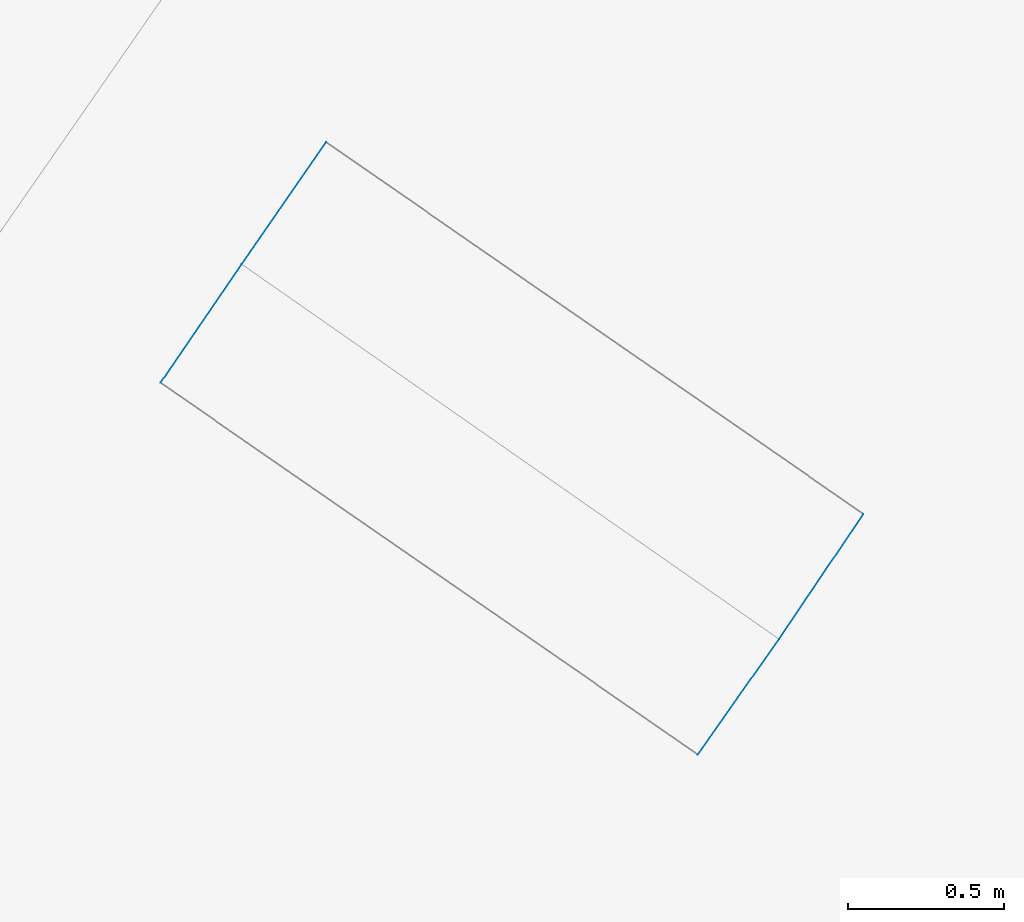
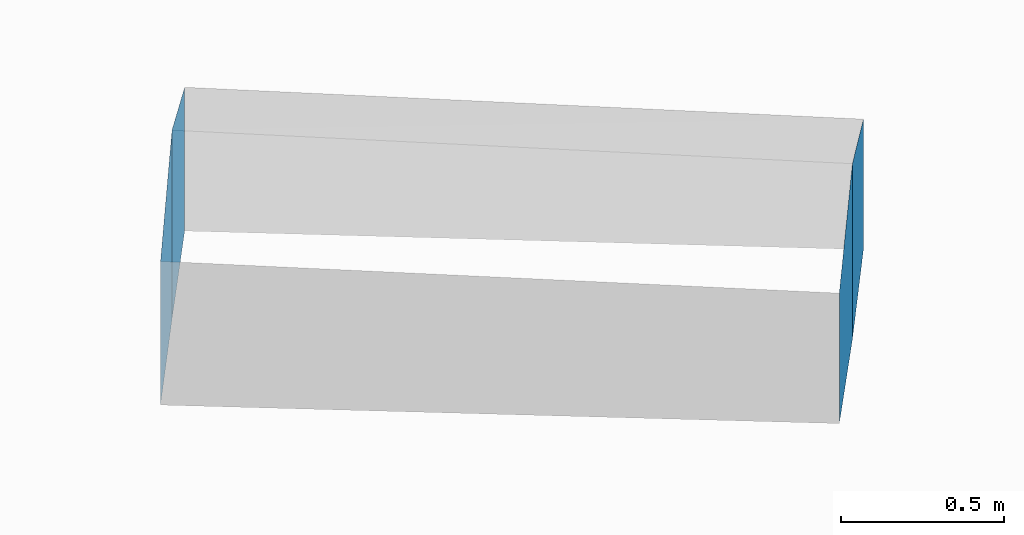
# Not in any storey, part 100 of 136: 4 walls.
"""IFC4 building model written with IfcOpenShell, lengths in metres."""

from ifc_helpers import new_model, entity, si_unit, converted_unit, origin, place, context, subcontext, project, spatial, face_set, surface_model, element, save


model = new_model("IFC4")

# Units and contexts
model_context = context("Model", 3, precision=1e-05, world=origin())
body_context = subcontext(model_context, "Body", "Model", "MODEL_VIEW")
ifc_project = project(units=[converted_unit("PLANEANGLEUNIT", "DEGREE", entity("IfcRatioMeasure", 0.0174532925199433), si_unit("PLANEANGLEUNIT", "RADIAN"), dimensions=[0, 0, 0, 0, 0, 0, 0]), si_unit("AREAUNIT", "SQUARE_METRE"), si_unit("LENGTHUNIT", "METRE")], contexts=[model_context])

# Site, building
site_placement = place(None, origin())
site = spatial("IfcSite", under=ifc_project, at=site_placement, Name="_site")
building_placement = place(site_placement, origin())
building = spatial("IfcBuilding", under=site, at=building_placement, Name="_building")

# Walls
wall_1_placement = place(building_placement, origin())
element("IfcWall", 1, at=wall_1_placement, inside=building, Name="Wall", PredefinedType="NOTDEFINED", context=body_context, shape_type="SurfaceModel", body=[
    surface_model("IfcFaceBasedSurfaceModel", [(-0.54, 66.73, 54.35), (-0.81, 66.33, 54.52), (-0.81, 66.33, 53.861), (-0.54, 66.73, 53.861)], [face_set([[[0, 1, 2, 3]]])]),
])
wall_2_placement = place(building_placement, origin())
element("IfcWall", 2, at=wall_2_placement, inside=building, Name="Wall", PredefinedType="NOTDEFINED", context=body_context, shape_type="SurfaceModel", body=[
    surface_model("IfcFaceBasedSurfaceModel", [(-2.53, 67.53, 54.52), (-2.26, 67.92, 54.35), (-2.26, 67.92, 53.811), (-2.53, 67.53, 53.811)], [face_set([[[0, 1, 2, 3]]])]),
])
wall_3_placement = place(building_placement, origin())
element("IfcWall", 3, at=wall_3_placement, inside=building, Name="Wall", PredefinedType="NOTDEFINED", context=body_context, shape_type="SurfaceModel", body=[
    surface_model("IfcFaceBasedSurfaceModel", [(-2.79, 67.15, 54.35), (-2.53, 67.53, 54.52), (-2.53, 67.53, 53.811), (-2.79, 67.15, 53.811)], [face_set([[[0, 1, 2, 3]]])]),
])
wall_4_placement = place(building_placement, origin())
element("IfcWall", 4, at=wall_4_placement, inside=building, Name="Wall", PredefinedType="NOTDEFINED", context=body_context, shape_type="SurfaceModel", body=[
    surface_model("IfcFaceBasedSurfaceModel", [(-0.81, 66.33, 54.52), (-1.07, 65.96, 54.35), (-1.07, 65.96, 53.861), (-0.81, 66.33, 53.861)], [face_set([[[0, 1, 2, 3]]])]),
])

save(model, "model.ifc")
